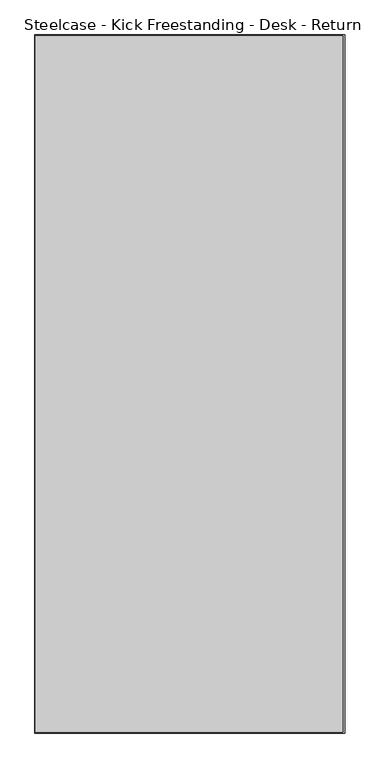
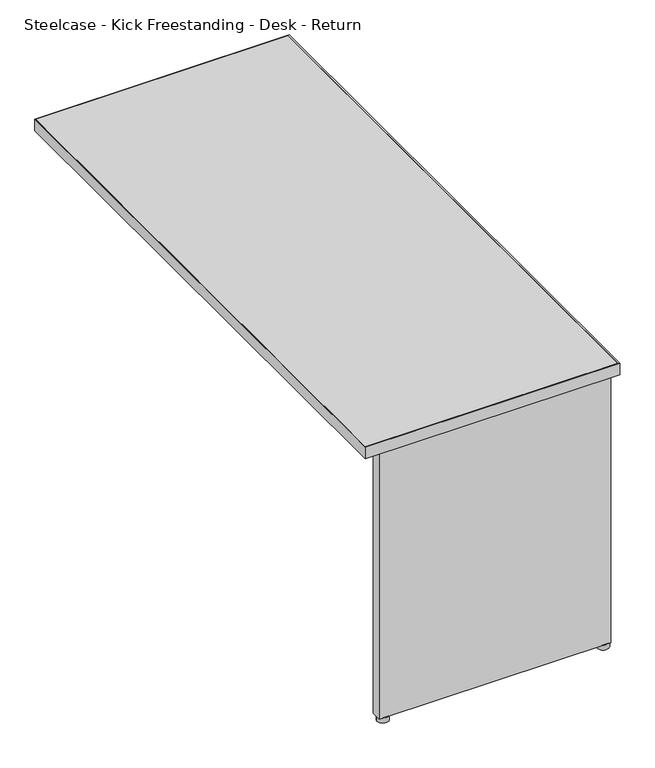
"""IFC4 building model written with IfcOpenShell, lengths in millimetres: furniture geometry, Steelcase - Kick Freestanding - Desk - Return : 24D x 54W - Left."""

from ifc_helpers import new_model, si_unit, point, frame, frame_2d, origin, origin_with_axes, place, context, project, spatial, polyline, circle_curve, trimmed, segment, composite_curve, outline, extrude, source, transform, mapped, element, save


def steelcase_kick_freestanding_desk_return_03fa5c54(model_context):
    return source(origin(), model_context, "Body", "SweptSolid", [
        extrude(outline(composite_curve([segment(trimmed(circle_curve(frame_2d((2220.2474425, -1893.0145152)), 13.97), [point((2206.2774425, -1893.0145152))], [point((2234.2174425, -1893.0145152))], False, "CARTESIAN"), True, "CONTINUOUS"), segment(trimmed(circle_curve(frame_2d((2220.2474425, -1893.0145152)), 13.97), [point((2234.2174425, -1893.0145152))], [point((2206.2774425, -1893.0145152))], False, "CARTESIAN"), True, "CONTINUOUS")], self_intersect=False)), origin_with_axes(), (0.0, 0.0, 1.0), 12.7),
        extrude(outline(composite_curve([segment(trimmed(circle_curve(frame_2d((2748.0594425, -1893.0145152)), 13.97), [point((2734.0894425, -1893.0145152))], [point((2762.0294425, -1893.0145152))], False, "CARTESIAN"), True, "CONTINUOUS"), segment(trimmed(circle_curve(frame_2d((2748.0594425, -1893.0145152)), 13.97), [point((2762.0294425, -1893.0145152))], [point((2734.0894425, -1893.0145152))], False, "CARTESIAN"), True, "CONTINUOUS")], self_intersect=False)), origin_with_axes(), (0.0, 0.0, 1.0), 12.7),
        extrude(outline(polyline([(2205.0074425, -1880.4669152), (2328.2736437, -1880.4669152), (2328.2736437, -1902.8951136), (2427.9940467, -1902.8951136), (2427.9940467, -1880.4669041), (2536.7314502, -1880.4669041), (2536.7314502, -1902.8951136), (2636.4518532, -1902.8951136), (2636.4518532, -1880.4669041), (2759.4894376, -1880.4669041), (2759.4894376, -1904.9525098), (2205.0074425, -1904.9525098), (2205.0074425, -1880.4669152)])), frame((0.0, 0.0, 12.7), z_axis=(0.0, 0.0, 1.0), x_axis=(1.0, 0.0, 0.0)), (0.0, 0.0, 1.0), 682.244),
        extrude(outline(polyline([(2769.2176592, -548.0845152), (2769.2176592, -1917.1445152), (2164.8500425, -1917.1445152), (2164.8500425, -548.0845152), (2769.2176592, -548.0845152)])), frame((0.0, 0.0, 694.944), z_axis=(0.0, 0.0, 1.0), x_axis=(1.0, 0.0, 0.0)), (0.0, 0.0, 1.0), 28.956),
        extrude(outline(polyline([(2773.4594425, -546.8145152), (2773.4594425, -1918.4145152), (2163.8594425, -1918.4145152), (2163.8594425, -546.8145152), (2773.4594425, -546.8145152)]), holes=[polyline([(2769.2176592, -548.0845152), (2164.8500425, -548.0845152), (2164.8500425, -1917.1445152), (2769.2176592, -1917.1445152), (2769.2176592, -548.0845152)])]), frame((0.0, 0.0, 694.944), z_axis=(0.0, 0.0, 1.0), x_axis=(1.0, 0.0, 0.0)), (0.0, 0.0, 1.0), 28.956),
    ])


if __name__ == "__main__":
    model = new_model("IFC4")
    model_context = context("Model", 3, world=origin())
    ifc_project = project(units=[si_unit("LENGTHUNIT", "METRE", prefix="MILLI")], contexts=[model_context])
    site = spatial("IfcSite", under=ifc_project)
    building = spatial("IfcBuilding", under=site)
    placement = place(None, origin())
    steelcase_kick_freestanding_desk_return_shape = steelcase_kick_freestanding_desk_return_03fa5c54(model_context)
    element("IfcFurniture", 1, ObjectType="Steelcase - Kick Freestanding - Desk - Return : 24D x 54W - Left", at=placement, inside=building, context=model_context, shape_type="MappedRepresentation", body=[
        mapped(steelcase_kick_freestanding_desk_return_shape, transform((0.0, 0.0, 0.0), x_axis=(1.0, 0.0, 0.0), y_axis=(0.0, 1.0, 0.0), z_axis=(0.0, 0.0, 1.0))),
    ])
    save(model, "model.ifc")
